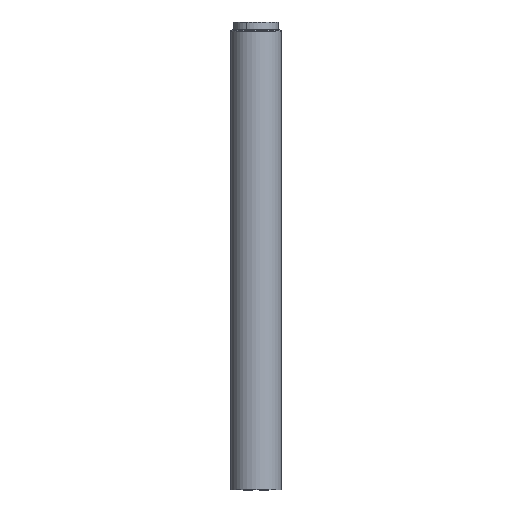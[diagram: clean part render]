
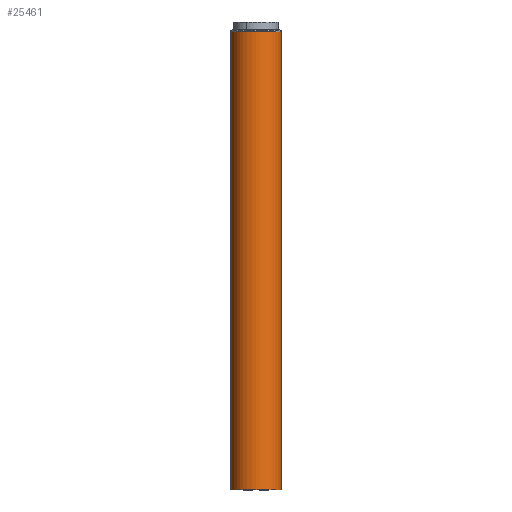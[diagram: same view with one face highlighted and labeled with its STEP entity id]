
A CAD part, front view. The second image highlights one B-rep face of the part: STEP entity #25461.
In plain terms, the highlighted cylindrical face has radius 35 mm (diameter 70 mm), a partial arc.
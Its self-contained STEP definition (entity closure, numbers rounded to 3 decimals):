
#2779 = DIRECTION ( 'NONE',  ( 0., 0., -1. ) ) ;
#3127 = ORIENTED_EDGE ( 'NONE', *, *, #29285, .T. ) ;
#5716 = VERTEX_POINT ( 'NONE', #60572 ) ;
#8087 = DIRECTION ( 'NONE',  ( 0., 0., 1. ) ) ;
#11406 = ORIENTED_EDGE ( 'NONE', *, *, #21563, .T. ) ;
#14659 = VERTEX_POINT ( 'NONE', #18540 ) ;
#16662 = CARTESIAN_POINT ( 'NONE',  ( -56.636, -6.063, 912.087 ) ) ;
#17250 = VERTEX_POINT ( 'NONE', #46538 ) ;
#17915 = VERTEX_POINT ( 'NONE', #39417 ) ;
#18540 = CARTESIAN_POINT ( 'NONE',  ( 13.364, -6.063, 280.087 ) ) ;
#19264 = AXIS2_PLACEMENT_3D ( 'NONE', #40499, #8087, #35528 ) ;
#21563 = EDGE_CURVE ( 'NONE', #17915, #14659, #24416, .T. ) ;
#23774 = LINE ( 'NONE', #48593, #37043 ) ;
#24416 = CIRCLE ( 'NONE', #28508, 35. ) ;
#24571 = CARTESIAN_POINT ( 'NONE',  ( -21.636, -6.063, 280.087 ) ) ;
#25461 = ADVANCED_FACE ( 'NONE', ( #36685 ), #50009, .T. ) ;
#26173 = VECTOR ( 'NONE', #2779, 1000. ) ;
#28046 = DIRECTION ( 'NONE',  ( -1., 0., 0. ) ) ;
#28508 = AXIS2_PLACEMENT_3D ( 'NONE', #24571, #47737, #57626 ) ;
#29285 = EDGE_CURVE ( 'NONE', #5716, #17915, #47635, .T. ) ;
#30098 = ORIENTED_EDGE ( 'NONE', *, *, #47552, .F. ) ;
#35528 = DIRECTION ( 'NONE',  ( 1., 0., 0. ) ) ;
#36073 = ORIENTED_EDGE ( 'NONE', *, *, #40784, .F. ) ;
#36685 = FACE_OUTER_BOUND ( 'NONE', #40017, .T. ) ;
#37043 = VECTOR ( 'NONE', #53154, 1000. ) ;
#39417 = CARTESIAN_POINT ( 'NONE',  ( -56.636, -6.063, 280.087 ) ) ;
#40017 = EDGE_LOOP ( 'NONE', ( #36073, #30098, #3127, #11406 ) ) ;
#40260 = AXIS2_PLACEMENT_3D ( 'NONE', #56397, #41737, #28046 ) ;
#40499 = CARTESIAN_POINT ( 'NONE',  ( -21.636, -6.063, 912.087 ) ) ;
#40784 = EDGE_CURVE ( 'NONE', #17250, #14659, #23774, .T. ) ;
#41737 = DIRECTION ( 'NONE',  ( 0., 0., -1. ) ) ;
#46538 = CARTESIAN_POINT ( 'NONE',  ( 13.364, -6.063, 912.087 ) ) ;
#47552 = EDGE_CURVE ( 'NONE', #5716, #17250, #56860, .T. ) ;
#47635 = LINE ( 'NONE', #16662, #26173 ) ;
#47737 = DIRECTION ( 'NONE',  ( 0., 0., 1. ) ) ;
#48593 = CARTESIAN_POINT ( 'NONE',  ( 13.364, -6.063, 912.087 ) ) ;
#50009 = CYLINDRICAL_SURFACE ( 'NONE', #40260, 35. ) ;
#53154 = DIRECTION ( 'NONE',  ( 0., 0., -1. ) ) ;
#56397 = CARTESIAN_POINT ( 'NONE',  ( -21.636, -6.063, 912.087 ) ) ;
#56860 = CIRCLE ( 'NONE', #19264, 35. ) ;
#57626 = DIRECTION ( 'NONE',  ( 1., 0., 0. ) ) ;
#60572 = CARTESIAN_POINT ( 'NONE',  ( -56.636, -6.063, 912.087 ) ) ;
